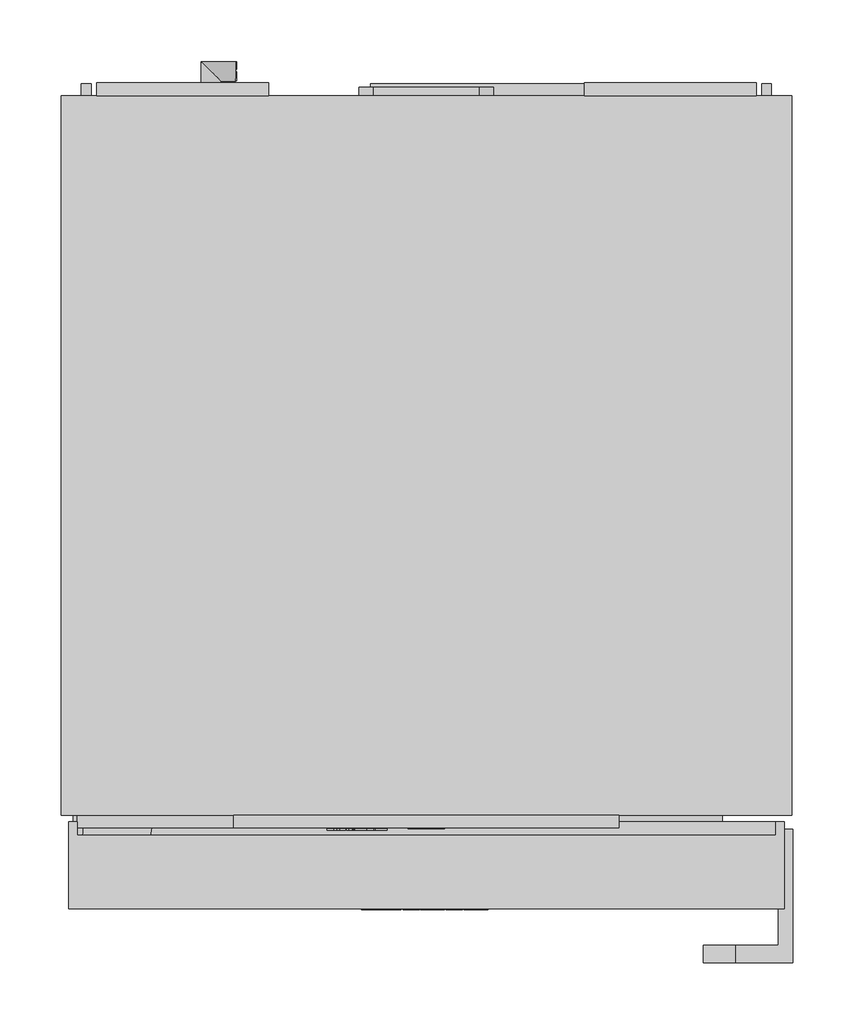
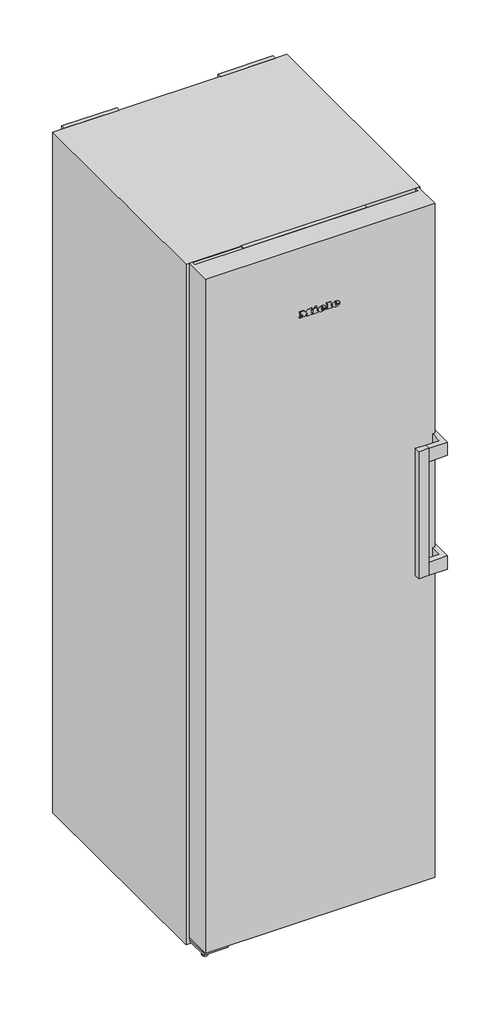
# Not in any storey: 1 proxy.
"""IFC4 building model written with IfcOpenShell, lengths in millimetres."""

from ifc_helpers import new_model, si_unit, origin, place, context, project, spatial, transform, mapped, element, save
from components import specialty_equipment_a60234ec

model = new_model("IFC4")

# Units and contexts
model_context = context("Model", 3, world=origin())
ifc_project = project(units=[si_unit("LENGTHUNIT", "METRE", prefix="MILLI")], contexts=[model_context])

# Site, building
site = spatial("IfcSite", under=ifc_project)
building = spatial("IfcBuilding", under=site)

# Proxy
placement = place(None, origin())
specialty_equipment_shape = specialty_equipment_a60234ec(model_context)
element("IfcBuildingElementProxy", 1, Name="12430380_EU2_FNS4382D_EL-N : 37438241_EU2_12430380_FNS4382D_EL-N", ObjectType="12430380_EU2_FNS4382D_EL-N : 37438241_EU2_12430380_FNS4382D_EL-N", at=placement, inside=building, context=model_context, shape_type="MappedRepresentation", body=[
    mapped(specialty_equipment_shape, transform((0.0, 0.0, 0.0), x_axis=(1.0, 0.0, 0.0), y_axis=(0.0, 1.0, 0.0), z_axis=(0.0, 0.0, 1.0))),
])

save(model, "model.ifc")
